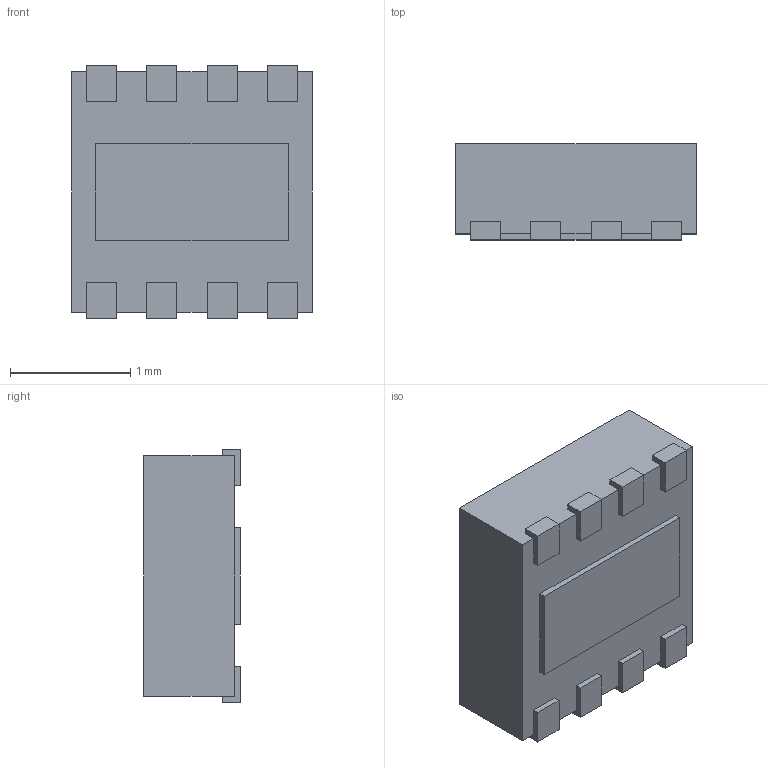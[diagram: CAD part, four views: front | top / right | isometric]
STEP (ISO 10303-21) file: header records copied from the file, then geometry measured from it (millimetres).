
FILE_DESCRIPTION (( 'STEP AP214' ), '1' );
FILE_NAME ( 'SON9P50_200X200X80L30X25T160X80.STEP', '2021-10-06T06:49:12', ( '' ), ( '' ), '', '©2017 PCB Libraries, Inc.', '' );
FILE_SCHEMA (( 'AUTOMOTIVE_DESIGN' ));
Length unit declared in the file: millimetre
Products named in the file (1): SON9P50_200X200X80L30X25T160X80
Bounding box: 2 x 0.8 x 2.1 mm (x, y, z)
Volume: 3.1 mm3; surface area: 18.9 mm2
Topology: 10 solids, 10 shells, 79 faces, 174 edges, 116 vertices
Faces by surface type: plane 77, torus 2
Entity records: 2489 total; most frequent: CARTESIAN_POINT 370, ORIENTED_EDGE 348, DIRECTION 340, EDGE_CURVE 174, VECTOR 168, LINE 168, VERTEX_POINT 116, STYLED_ITEM 90
